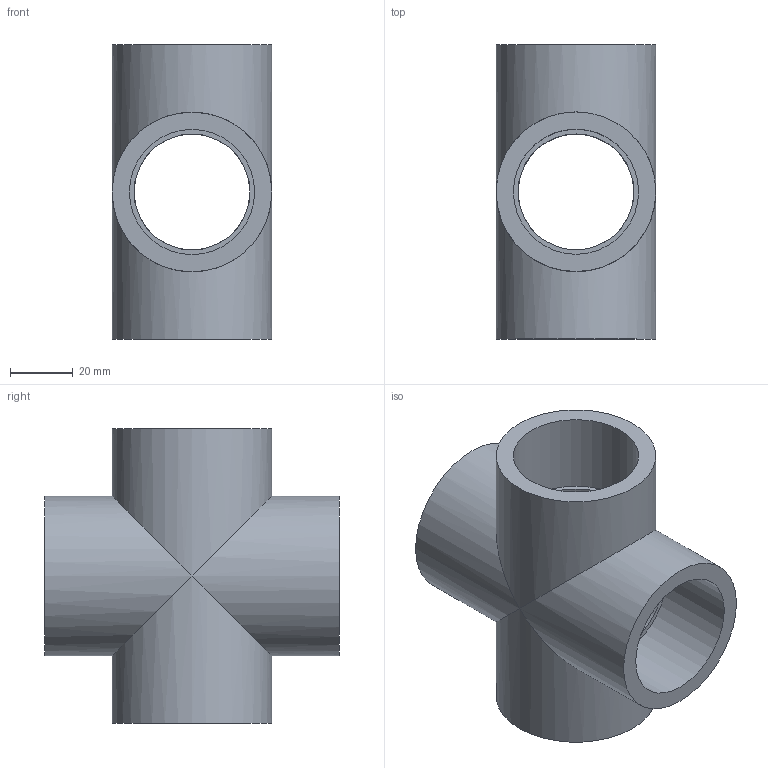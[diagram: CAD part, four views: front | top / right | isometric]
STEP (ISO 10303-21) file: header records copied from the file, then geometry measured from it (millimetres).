
FILE_DESCRIPTION(/* description */ ('Croci a 90° PVC'),/* implementation_level */ '2;1');
FILE_NAME(/* name */ 'C:\Users\POLYPIPE\Desktop\DATASET INVENTOR\LIBRERIA EFFAST\RACCORDI 3DxWEB\RDR\3D_RDRCRD\3D_RDRCRD0400.stp',/* time_stamp */ '2018-01-19T14:17:23+01:00',/* author */ ('POLYPIPE'),/* organization */ ('Polypipe Italia s.r.l.'),/* preprocessor_version */ 'ST-DEVELOPER v16.1',/* originating_system */ 'Autodesk Inventor 2016',/* authorisation */ '');
FILE_SCHEMA (('CONFIG_CONTROL_DESIGN'));
Length unit declared in the file: millimetre
Products named in the file (1): 3D_RDRCRD
Bounding box: 51 x 94 x 94 mm (x, y, z)
Volume: 108377.1 mm3; surface area: 40945.1 mm2
Topology: 1 solids, 1 shells, 20 faces, 36 edges, 20 vertices
Faces by surface type: cylinder 12, plane 8
Full cylindrical faces by diameter (mm): 37 x4, 40 x4, 51 x4
Entity records: 464 total; most frequent: DIRECTION 90, CARTESIAN_POINT 65, ORIENTED_EDGE 48, AXIS2_PLACEMENT_3D 45, EDGE_LOOP 40, EDGE_CURVE 24, FACE_BOUND 20, FACE_OUTER_BOUND 20
